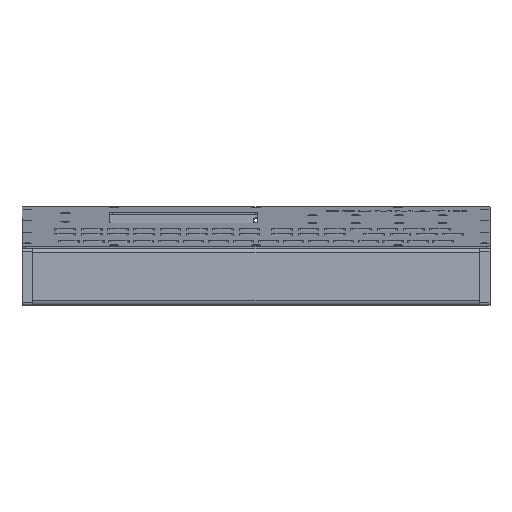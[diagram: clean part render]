
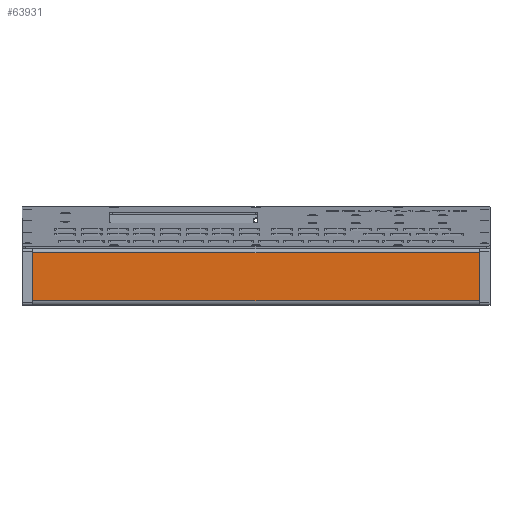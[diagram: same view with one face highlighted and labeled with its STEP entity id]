
A CAD part, front view. The second image highlights one B-rep face of the part: STEP entity #63931.
In plain terms, the highlighted planar face has unit normal (0, -1, 0).
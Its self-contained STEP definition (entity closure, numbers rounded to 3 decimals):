
#58568 = PLANE('',#58569);
#58569 = AXIS2_PLACEMENT_3D('',#58570,#58571,#58572);
#58570 = CARTESIAN_POINT('',(348.,124.376,13.07));
#58571 = DIRECTION('',(1.,0.,0.));
#58572 = DIRECTION('',(-0.,0.,1.));
#58627 = PLANE('',#58628);
#58628 = AXIS2_PLACEMENT_3D('',#58629,#58630,#58631);
#58629 = CARTESIAN_POINT('',(8.,124.376,13.07));
#58630 = DIRECTION('',(1.,0.,0.));
#58631 = DIRECTION('',(-0.,0.,1.));
#59393 = VERTEX_POINT('',#59394);
#59394 = CARTESIAN_POINT('',(8.,0.,39.835));
#59409 = CYLINDRICAL_SURFACE('',#59410,3.5);
#59410 = AXIS2_PLACEMENT_3D('',#59411,#59412,#59413);
#59411 = CARTESIAN_POINT('',(8.,3.5,39.835));
#59412 = DIRECTION('',(-1.,-0.,0.));
#59413 = DIRECTION('',(0.,0.,1.));
#59421 = EDGE_CURVE('',#59393,#59422,#59424,.T.);
#59422 = VERTEX_POINT('',#59423);
#59423 = CARTESIAN_POINT('',(8.,0.,3.5));
#59424 = SURFACE_CURVE('',#59425,(#59429,#59436),.PCURVE_S1.);
#59425 = LINE('',#59426,#59427);
#59426 = CARTESIAN_POINT('',(8.,0.,42.25));
#59427 = VECTOR('',#59428,1.);
#59428 = DIRECTION('',(0.,-0.,-1.));
#59429 = PCURVE('',#58627,#59430);
#59430 = DEFINITIONAL_REPRESENTATION('',(#59431),#59435);
#59431 = LINE('',#59432,#59433);
#59432 = CARTESIAN_POINT('',(29.18,124.376));
#59433 = VECTOR('',#59434,1.);
#59434 = DIRECTION('',(-1.,0.));
#59435 = ( GEOMETRIC_REPRESENTATION_CONTEXT(2) 
PARAMETRIC_REPRESENTATION_CONTEXT() REPRESENTATION_CONTEXT('2D SPACE',''
  ) );
#59436 = PCURVE('',#59437,#59442);
#59437 = PLANE('',#59438);
#59438 = AXIS2_PLACEMENT_3D('',#59439,#59440,#59441);
#59439 = CARTESIAN_POINT('',(8.,0.,39.835));
#59440 = DIRECTION('',(0.,1.,-0.));
#59441 = DIRECTION('',(0.,-0.,-1.));
#59442 = DEFINITIONAL_REPRESENTATION('',(#59443),#59447);
#59443 = LINE('',#59444,#59445);
#59444 = CARTESIAN_POINT('',(-2.415,0.));
#59445 = VECTOR('',#59446,1.);
#59446 = DIRECTION('',(1.,0.));
#59447 = ( GEOMETRIC_REPRESENTATION_CONTEXT(2) 
PARAMETRIC_REPRESENTATION_CONTEXT() REPRESENTATION_CONTEXT('2D SPACE',''
  ) );
#59466 = CYLINDRICAL_SURFACE('',#59467,3.5);
#59467 = AXIS2_PLACEMENT_3D('',#59468,#59469,#59470);
#59468 = CARTESIAN_POINT('',(8.,3.5,3.5));
#59469 = DIRECTION('',(-1.,-0.,0.));
#59470 = DIRECTION('',(0.,0.,1.));
#59997 = VERTEX_POINT('',#59998);
#59998 = CARTESIAN_POINT('',(348.,0.,39.835));
#60020 = EDGE_CURVE('',#59997,#60021,#60023,.T.);
#60021 = VERTEX_POINT('',#60022);
#60022 = CARTESIAN_POINT('',(348.,0.,3.5));
#60023 = SURFACE_CURVE('',#60024,(#60028,#60035),.PCURVE_S1.);
#60024 = LINE('',#60025,#60026);
#60025 = CARTESIAN_POINT('',(348.,0.,42.25));
#60026 = VECTOR('',#60027,1.);
#60027 = DIRECTION('',(0.,-0.,-1.));
#60028 = PCURVE('',#58568,#60029);
#60029 = DEFINITIONAL_REPRESENTATION('',(#60030),#60034);
#60030 = LINE('',#60031,#60032);
#60031 = CARTESIAN_POINT('',(29.18,124.376));
#60032 = VECTOR('',#60033,1.);
#60033 = DIRECTION('',(-1.,0.));
#60034 = ( GEOMETRIC_REPRESENTATION_CONTEXT(2) 
PARAMETRIC_REPRESENTATION_CONTEXT() REPRESENTATION_CONTEXT('2D SPACE',''
  ) );
#60035 = PCURVE('',#59437,#60036);
#60036 = DEFINITIONAL_REPRESENTATION('',(#60037),#60041);
#60037 = LINE('',#60038,#60039);
#60038 = CARTESIAN_POINT('',(-2.415,-340.));
#60039 = VECTOR('',#60040,1.);
#60040 = DIRECTION('',(1.,0.));
#60041 = ( GEOMETRIC_REPRESENTATION_CONTEXT(2) 
PARAMETRIC_REPRESENTATION_CONTEXT() REPRESENTATION_CONTEXT('2D SPACE',''
  ) );
#63859 = EDGE_CURVE('',#59422,#60021,#63860,.T.);
#63860 = SURFACE_CURVE('',#63861,(#63865,#63872),.PCURVE_S1.);
#63861 = LINE('',#63862,#63863);
#63862 = CARTESIAN_POINT('',(8.,0.,3.5));
#63863 = VECTOR('',#63864,1.);
#63864 = DIRECTION('',(1.,0.,0.));
#63865 = PCURVE('',#59466,#63866);
#63866 = DEFINITIONAL_REPRESENTATION('',(#63867),#63871);
#63867 = LINE('',#63868,#63869);
#63868 = CARTESIAN_POINT('',(-1.571,0.));
#63869 = VECTOR('',#63870,1.);
#63870 = DIRECTION('',(-0.,-1.));
#63871 = ( GEOMETRIC_REPRESENTATION_CONTEXT(2) 
PARAMETRIC_REPRESENTATION_CONTEXT() REPRESENTATION_CONTEXT('2D SPACE',''
  ) );
#63872 = PCURVE('',#59437,#63873);
#63873 = DEFINITIONAL_REPRESENTATION('',(#63874),#63878);
#63874 = LINE('',#63875,#63876);
#63875 = CARTESIAN_POINT('',(36.335,0.));
#63876 = VECTOR('',#63877,1.);
#63877 = DIRECTION('',(0.,-1.));
#63878 = ( GEOMETRIC_REPRESENTATION_CONTEXT(2) 
PARAMETRIC_REPRESENTATION_CONTEXT() REPRESENTATION_CONTEXT('2D SPACE',''
  ) );
#63931 = ADVANCED_FACE('',(#63932),#59437,.F.);
#63932 = FACE_BOUND('',#63933,.F.);
#63933 = EDGE_LOOP('',(#63934,#63955,#63956,#63957));
#63934 = ORIENTED_EDGE('',*,*,#63935,.T.);
#63935 = EDGE_CURVE('',#59393,#59997,#63936,.T.);
#63936 = SURFACE_CURVE('',#63937,(#63941,#63948),.PCURVE_S1.);
#63937 = LINE('',#63938,#63939);
#63938 = CARTESIAN_POINT('',(8.,0.,39.835));
#63939 = VECTOR('',#63940,1.);
#63940 = DIRECTION('',(1.,0.,0.));
#63941 = PCURVE('',#59437,#63942);
#63942 = DEFINITIONAL_REPRESENTATION('',(#63943),#63947);
#63943 = LINE('',#63944,#63945);
#63944 = CARTESIAN_POINT('',(0.,0.));
#63945 = VECTOR('',#63946,1.);
#63946 = DIRECTION('',(0.,-1.));
#63947 = ( GEOMETRIC_REPRESENTATION_CONTEXT(2) 
PARAMETRIC_REPRESENTATION_CONTEXT() REPRESENTATION_CONTEXT('2D SPACE',''
  ) );
#63948 = PCURVE('',#59409,#63949);
#63949 = DEFINITIONAL_REPRESENTATION('',(#63950),#63954);
#63950 = LINE('',#63951,#63952);
#63951 = CARTESIAN_POINT('',(-7.854,0.));
#63952 = VECTOR('',#63953,1.);
#63953 = DIRECTION('',(-0.,-1.));
#63954 = ( GEOMETRIC_REPRESENTATION_CONTEXT(2) 
PARAMETRIC_REPRESENTATION_CONTEXT() REPRESENTATION_CONTEXT('2D SPACE',''
  ) );
#63955 = ORIENTED_EDGE('',*,*,#60020,.T.);
#63956 = ORIENTED_EDGE('',*,*,#63859,.F.);
#63957 = ORIENTED_EDGE('',*,*,#59421,.F.);
